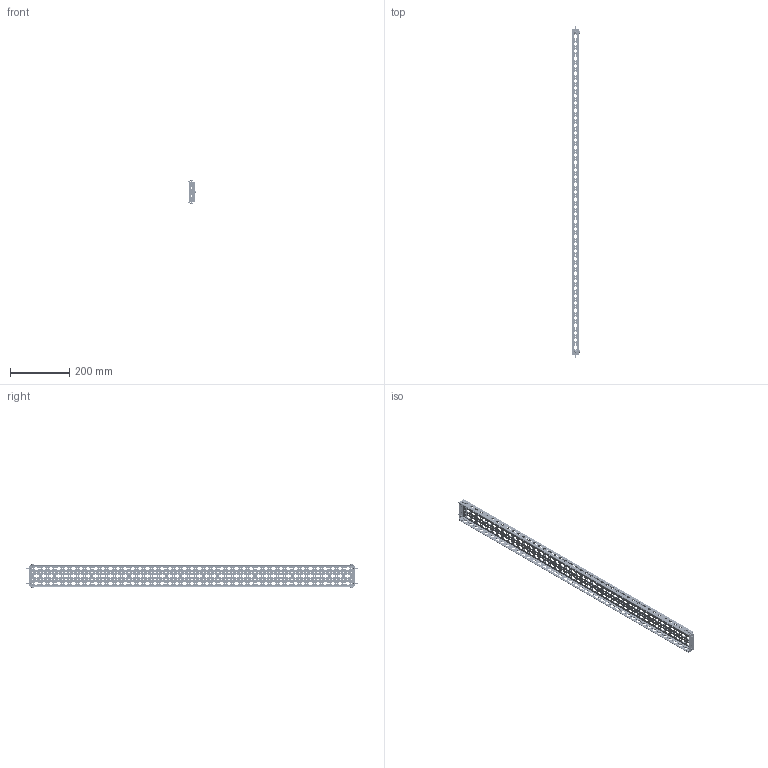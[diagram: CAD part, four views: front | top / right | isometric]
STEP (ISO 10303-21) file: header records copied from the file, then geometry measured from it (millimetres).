
FILE_DESCRIPTION(('Open CASCADE Model'),'2;1');
FILE_NAME('Open CASCADE Shape Model','2025-01-16T16:22:23',('Author'),( 'Open CASCADE'),'Open CASCADE STEP processor 7.8','Open CASCADE 7.8' ,'Unknown');
FILE_SCHEMA(('AUTOMOTIVE_DESIGN { 1 0 10303 214 1 1 1 1 }'));
Products named in the file (1): Solid1
Bounding box: 28.54 x 1120 x 82.12 mm (x, y, z)
Volume: 195928.1 mm3; surface area: 283228.2 mm2
Topology: 7 solids, 7 shells, 4883 faces, 14435 edges, 9568 vertices
Faces by surface type: cylinder 3225, plane 1558, torus 40, cone 20, bspline 20, sphere 20
Full cylindrical faces by diameter (mm): 5 x16
Entity records: 171413 total; most frequent: CARTESIAN_POINT 32243, DIRECTION 30677, ORIENTED_EDGE 28830, EDGE_CURVE 14415, AXIS2_PLACEMENT_3D 11514, VERTEX_POINT 9568, LINE 7649, VECTOR 7649
